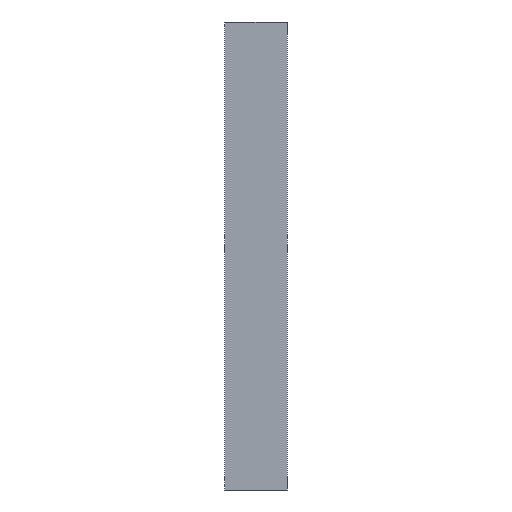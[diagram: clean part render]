
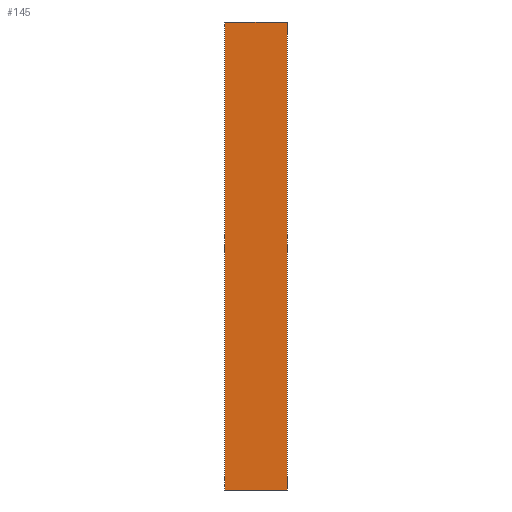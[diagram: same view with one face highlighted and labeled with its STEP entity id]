
A CAD part, front view. The second image highlights one B-rep face of the part: STEP entity #145.
In plain terms, the highlighted planar face has unit normal (0, -1, 0).
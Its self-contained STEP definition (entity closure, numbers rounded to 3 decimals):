
#8 = LINE ( 'NONE', #381, #1925 ) ;
#48 = FACE_OUTER_BOUND ( 'NONE', #1137, .T. ) ;
#58 = CARTESIAN_POINT ( 'NONE',  ( -200., 0., 1500. ) ) ;
#62 = DIRECTION ( 'NONE',  ( 0., 0., -1. ) ) ;
#145 = ADVANCED_FACE ( 'NONE', ( #48 ), #1976, .F. ) ;
#258 = VERTEX_POINT ( 'NONE', #2029 ) ;
#381 = CARTESIAN_POINT ( 'NONE',  ( -200., 0., 1500. ) ) ;
#418 = CARTESIAN_POINT ( 'NONE',  ( 200., 0., 1500. ) ) ;
#494 = CARTESIAN_POINT ( 'NONE',  ( 200., 0., 1500. ) ) ;
#766 = VERTEX_POINT ( 'NONE', #494 ) ;
#786 = DIRECTION ( 'NONE',  ( -1., 0., 0. ) ) ;
#820 = LINE ( 'NONE', #58, #1579 ) ;
#970 = VECTOR ( 'NONE', #1940, 1000. ) ;
#1085 = CARTESIAN_POINT ( 'NONE',  ( -200., 0., 1500. ) ) ;
#1137 = EDGE_LOOP ( 'NONE', ( #1781, #1676, #2278, #1820 ) ) ;
#1238 = CARTESIAN_POINT ( 'NONE',  ( -200., 0., -1500. ) ) ;
#1241 = AXIS2_PLACEMENT_3D ( 'NONE', #2165, #1929, #786 ) ;
#1357 = VERTEX_POINT ( 'NONE', #1085 ) ;
#1472 = EDGE_CURVE ( 'NONE', #1984, #258, #1547, .T. ) ;
#1484 = EDGE_CURVE ( 'NONE', #1357, #1984, #820, .T. ) ;
#1547 = LINE ( 'NONE', #2320, #970 ) ;
#1579 = VECTOR ( 'NONE', #2152, 1000. ) ;
#1676 = ORIENTED_EDGE ( 'NONE', *, *, #1962, .F. ) ;
#1781 = ORIENTED_EDGE ( 'NONE', *, *, #1472, .T. ) ;
#1820 = ORIENTED_EDGE ( 'NONE', *, *, #1484, .T. ) ;
#1925 = VECTOR ( 'NONE', #1959, 1000. ) ;
#1929 = DIRECTION ( 'NONE',  ( 0., 1., 0. ) ) ;
#1940 = DIRECTION ( 'NONE',  ( 1., 0., 0. ) ) ;
#1959 = DIRECTION ( 'NONE',  ( 1., 0., 0. ) ) ;
#1962 = EDGE_CURVE ( 'NONE', #766, #258, #2144, .T. ) ;
#1976 = PLANE ( 'NONE',  #1241 ) ;
#1984 = VERTEX_POINT ( 'NONE', #1238 ) ;
#2029 = CARTESIAN_POINT ( 'NONE',  ( 200., 0., -1500. ) ) ;
#2144 = LINE ( 'NONE', #418, #2413 ) ;
#2152 = DIRECTION ( 'NONE',  ( 0., 0., -1. ) ) ;
#2165 = CARTESIAN_POINT ( 'NONE',  ( -200., 0., 1500. ) ) ;
#2272 = EDGE_CURVE ( 'NONE', #1357, #766, #8, .T. ) ;
#2278 = ORIENTED_EDGE ( 'NONE', *, *, #2272, .F. ) ;
#2320 = CARTESIAN_POINT ( 'NONE',  ( -200., 0., -1500. ) ) ;
#2413 = VECTOR ( 'NONE', #62, 1000. ) ;
